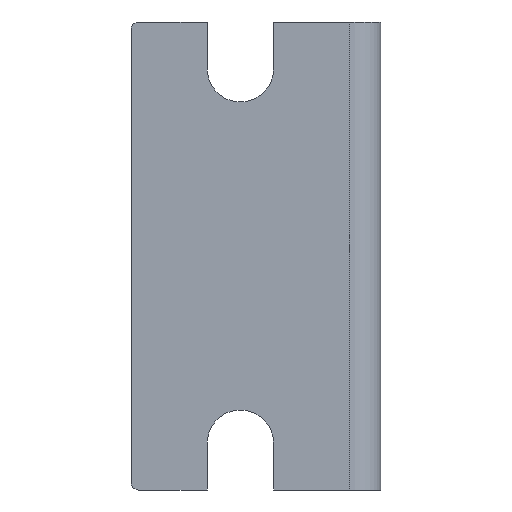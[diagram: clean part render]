
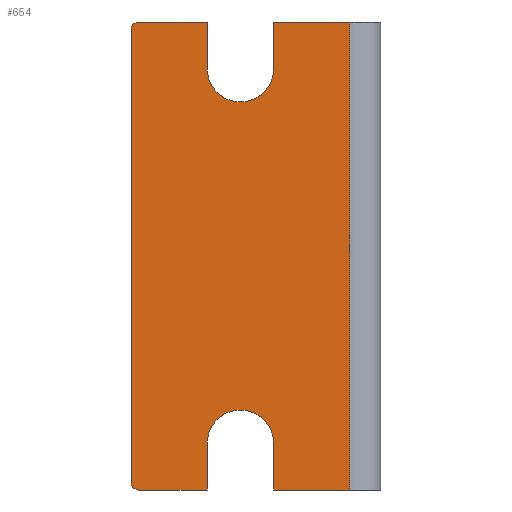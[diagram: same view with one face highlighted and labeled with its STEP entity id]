
A CAD part, front view. The second image highlights one B-rep face of the part: STEP entity #654.
In plain terms, the highlighted planar face has unit normal (0, -1, 0).
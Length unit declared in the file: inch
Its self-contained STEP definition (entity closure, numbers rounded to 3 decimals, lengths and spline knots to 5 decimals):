
#6=DIRECTION('',(1.,0.,0.));
#7=VECTOR('',#6,0.3045);
#8=CARTESIAN_POINT('',(-0.4295,-0.8125,-0.9375));
#9=LINE('',#8,#7);
#35=DIRECTION('',(1.,0.,0.));
#36=VECTOR('',#35,0.2745);
#37=CARTESIAN_POINT('',(-0.97,-0.8125,-0.9375));
#38=LINE('',#37,#36);
#123=CARTESIAN_POINT('',(-0.97,-0.8125,0.9075));
#124=DIRECTION('',(0.,-1.,0.));
#125=DIRECTION('',(0.,0.,1.));
#126=AXIS2_PLACEMENT_3D('',#123,#124,#125);
#128=DIRECTION('',(0.,0.,-1.));
#129=VECTOR('',#128,0.1875);
#130=CARTESIAN_POINT('',(-0.6955,-0.8125,0.9375));
#131=LINE('',#130,#129);
#132=CARTESIAN_POINT('',(-0.5625,-0.8125,0.75));
#133=DIRECTION('',(0.,1.,0.));
#134=DIRECTION('',(1.,0.,0.));
#135=AXIS2_PLACEMENT_3D('',#132,#133,#134);
#137=DIRECTION('',(0.,0.,-1.));
#138=VECTOR('',#137,0.1875);
#139=CARTESIAN_POINT('',(-0.4295,-0.8125,0.9375));
#140=LINE('',#139,#138);
#141=DIRECTION('',(0.,0.,-1.));
#142=VECTOR('',#141,1.875);
#143=CARTESIAN_POINT('',(-0.125,-0.8125,0.9375));
#144=LINE('',#143,#142);
#145=DIRECTION('',(0.,0.,1.));
#146=VECTOR('',#145,0.1875);
#147=CARTESIAN_POINT('',(-0.4295,-0.8125,-0.9375));
#148=LINE('',#147,#146);
#149=CARTESIAN_POINT('',(-0.5625,-0.8125,-0.75));
#150=DIRECTION('',(0.,1.,0.));
#151=DIRECTION('',(-1.,0.,0.));
#152=AXIS2_PLACEMENT_3D('',#149,#150,#151);
#154=DIRECTION('',(0.,0.,1.));
#155=VECTOR('',#154,0.1875);
#156=CARTESIAN_POINT('',(-0.6955,-0.8125,-0.9375));
#157=LINE('',#156,#155);
#158=CARTESIAN_POINT('',(-0.97,-0.8125,-0.9075));
#159=DIRECTION('',(0.,-1.,0.));
#160=DIRECTION('',(-1.,0.,0.));
#161=AXIS2_PLACEMENT_3D('',#158,#159,#160);
#163=DIRECTION('',(0.,0.,1.));
#164=VECTOR('',#163,1.815);
#165=CARTESIAN_POINT('',(-1.,-0.8125,-0.9075));
#166=LINE('',#165,#164);
#192=DIRECTION('',(1.,0.,0.));
#193=VECTOR('',#192,0.3045);
#194=CARTESIAN_POINT('',(-0.4295,-0.8125,0.9375));
#195=LINE('',#194,#193);
#208=DIRECTION('',(1.,0.,0.));
#209=VECTOR('',#208,0.2745);
#210=CARTESIAN_POINT('',(-0.97,-0.8125,0.9375));
#211=LINE('',#210,#209);
#393=CARTESIAN_POINT('',(-0.125,-0.8125,-0.9375));
#395=VERTEX_POINT('',#393);
#396=CARTESIAN_POINT('',(-0.125,-0.8125,0.9375));
#397=VERTEX_POINT('',#396);
#424=CARTESIAN_POINT('',(-0.4295,-0.8125,-0.9375));
#426=VERTEX_POINT('',#424);
#428=CARTESIAN_POINT('',(-0.6955,-0.8125,-0.9375));
#430=VERTEX_POINT('',#428);
#432=CARTESIAN_POINT('',(-0.6955,-0.8125,0.9375));
#434=VERTEX_POINT('',#432);
#436=CARTESIAN_POINT('',(-0.4295,-0.8125,0.9375));
#438=VERTEX_POINT('',#436);
#448=CARTESIAN_POINT('',(-0.4295,-0.8125,-0.75));
#449=VERTEX_POINT('',#448);
#450=CARTESIAN_POINT('',(-0.6955,-0.8125,-0.75));
#451=VERTEX_POINT('',#450);
#452=CARTESIAN_POINT('',(-0.4295,-0.8125,0.75));
#453=CARTESIAN_POINT('',(-0.6955,-0.8125,0.75));
#454=VERTEX_POINT('',#452);
#455=VERTEX_POINT('',#453);
#488=CARTESIAN_POINT('',(-0.97,-0.8125,0.9375));
#489=CARTESIAN_POINT('',(-1.,-0.8125,0.9075));
#490=VERTEX_POINT('',#488);
#491=VERTEX_POINT('',#489);
#500=CARTESIAN_POINT('',(-1.,-0.8125,-0.9075));
#501=VERTEX_POINT('',#500);
#502=CARTESIAN_POINT('',(-0.97,-0.8125,-0.9375));
#503=VERTEX_POINT('',#502);
#623=CARTESIAN_POINT('',(-1.,-0.8125,-0.9375));
#624=DIRECTION('',(0.,-1.,0.));
#625=DIRECTION('',(1.,0.,0.));
#626=AXIS2_PLACEMENT_3D('',#623,#624,#625);
#627=PLANE('',#626);
#628=ORIENTED_EDGE('',*,*,#613,.F.);
#630=ORIENTED_EDGE('',*,*,#629,.T.);
#632=ORIENTED_EDGE('',*,*,#631,.T.);
#634=ORIENTED_EDGE('',*,*,#633,.F.);
#636=ORIENTED_EDGE('',*,*,#635,.F.);
#638=ORIENTED_EDGE('',*,*,#637,.T.);
#640=ORIENTED_EDGE('',*,*,#639,.T.);
#641=ORIENTED_EDGE('',*,*,#511,.F.);
#642=ORIENTED_EDGE('',*,*,#554,.T.);
#644=ORIENTED_EDGE('',*,*,#643,.F.);
#646=ORIENTED_EDGE('',*,*,#645,.F.);
#647=ORIENTED_EDGE('',*,*,#535,.F.);
#649=ORIENTED_EDGE('',*,*,#648,.F.);
#651=ORIENTED_EDGE('',*,*,#650,.T.);
#652=EDGE_LOOP('',(#628,#630,#632,#634,#636,#638,#640,#641,#642,#644,#646,#647,
#649,#651));
#653=FACE_OUTER_BOUND('',#652,.F.);
#654=ADVANCED_FACE('',(#653),#627,.T.);
#127=CIRCLE('',#126,0.03);
#136=CIRCLE('',#135,0.133);
#153=CIRCLE('',#152,0.133);
#162=CIRCLE('',#161,0.03);
#511=EDGE_CURVE('',#426,#395,#9,.T.);
#535=EDGE_CURVE('',#503,#430,#38,.T.);
#554=EDGE_CURVE('',#426,#449,#148,.T.);
#613=EDGE_CURVE('',#490,#491,#127,.T.);
#629=EDGE_CURVE('',#490,#434,#211,.T.);
#631=EDGE_CURVE('',#434,#455,#131,.T.);
#633=EDGE_CURVE('',#454,#455,#136,.T.);
#635=EDGE_CURVE('',#438,#454,#140,.T.);
#637=EDGE_CURVE('',#438,#397,#195,.T.);
#639=EDGE_CURVE('',#397,#395,#144,.T.);
#643=EDGE_CURVE('',#451,#449,#153,.T.);
#645=EDGE_CURVE('',#430,#451,#157,.T.);
#648=EDGE_CURVE('',#501,#503,#162,.T.);
#650=EDGE_CURVE('',#501,#491,#166,.T.);
